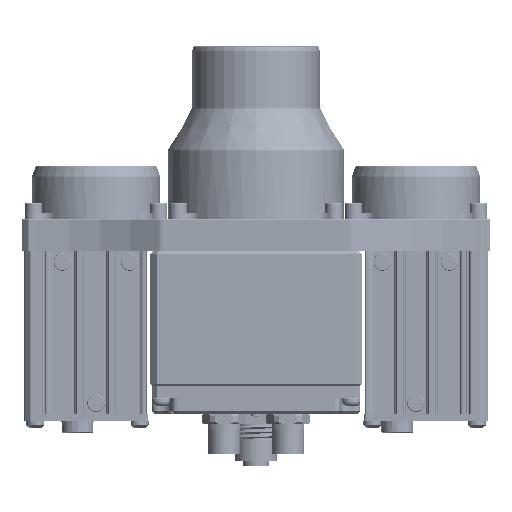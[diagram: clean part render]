
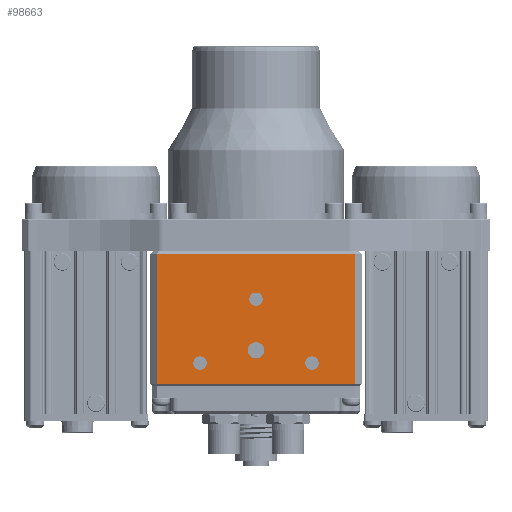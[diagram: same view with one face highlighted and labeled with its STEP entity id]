
A CAD part, front view. The second image highlights one B-rep face of the part: STEP entity #98663.
In plain terms, the highlighted planar face has unit normal (0, -1, 0).
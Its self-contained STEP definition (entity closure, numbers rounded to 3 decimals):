
#1923=PLANE('',#107540);
#3163=FACE_BOUND('',#11820,.T.);
#3164=FACE_BOUND('',#11821,.T.);
#3165=FACE_BOUND('',#11822,.T.);
#3166=FACE_BOUND('',#11823,.T.);
#6424=FACE_OUTER_BOUND('',#11819,.T.);
#11819=EDGE_LOOP('',(#75637,#75638,#75639,#75640));
#11820=EDGE_LOOP('',(#75641));
#11821=EDGE_LOOP('',(#75642));
#11822=EDGE_LOOP('',(#75643));
#11823=EDGE_LOOP('',(#75644));
#18084=CIRCLE('',#107541,2.1);
#18085=CIRCLE('',#107542,2.1);
#18086=CIRCLE('',#107543,2.1);
#18087=CIRCLE('',#107544,2.553);
#24720=LINE('',#166664,#32726);
#24750=LINE('',#166722,#32756);
#24754=LINE('',#166729,#32760);
#24757=LINE('',#166733,#32763);
#32726=VECTOR('',#128345,1000.);
#32756=VECTOR('',#128399,1000.);
#32760=VECTOR('',#128409,1000.);
#32763=VECTOR('',#128414,1000.);
#42473=VERTEX_POINT('',#166647);
#42479=VERTEX_POINT('',#166662);
#42493=VERTEX_POINT('',#166712);
#42495=VERTEX_POINT('',#166720);
#42499=VERTEX_POINT('',#166746);
#42500=VERTEX_POINT('',#166748);
#42501=VERTEX_POINT('',#166750);
#42502=VERTEX_POINT('',#166752);
#54390=EDGE_CURVE('',#42473,#42479,#24720,.T.);
#54420=EDGE_CURVE('',#42493,#42495,#24750,.T.);
#54424=EDGE_CURVE('',#42479,#42493,#24754,.T.);
#54427=EDGE_CURVE('',#42495,#42473,#24757,.T.);
#54433=EDGE_CURVE('',#42499,#42499,#18084,.T.);
#54434=EDGE_CURVE('',#42500,#42500,#18085,.T.);
#54435=EDGE_CURVE('',#42501,#42501,#18086,.T.);
#54436=EDGE_CURVE('',#42502,#42502,#18087,.T.);
#75637=ORIENTED_EDGE('',*,*,#54427,.T.);
#75638=ORIENTED_EDGE('',*,*,#54390,.T.);
#75639=ORIENTED_EDGE('',*,*,#54424,.T.);
#75640=ORIENTED_EDGE('',*,*,#54420,.T.);
#75641=ORIENTED_EDGE('',*,*,#54433,.F.);
#75642=ORIENTED_EDGE('',*,*,#54434,.F.);
#75643=ORIENTED_EDGE('',*,*,#54435,.F.);
#75644=ORIENTED_EDGE('',*,*,#54436,.F.);
#98663=ADVANCED_FACE('',(#6424,#3163,#3164,#3165,#3166),#1923,.T.);
#107540=AXIS2_PLACEMENT_3D('',#166745,#128429,#128430);
#107541=AXIS2_PLACEMENT_3D('',#166747,#128431,#128432);
#107542=AXIS2_PLACEMENT_3D('',#166749,#128433,#128434);
#107543=AXIS2_PLACEMENT_3D('',#166751,#128435,#128436);
#107544=AXIS2_PLACEMENT_3D('',#166753,#128437,#128438);
#128345=DIRECTION('',(1.,0.,0.));
#128399=DIRECTION('',(-1.,0.,0.));
#128409=DIRECTION('',(0.,0.,1.));
#128414=DIRECTION('',(0.,0.,-1.));
#128429=DIRECTION('center_axis',(0.,-1.,0.));
#128430=DIRECTION('ref_axis',(0.,0.,
-1.));
#128431=DIRECTION('center_axis',(0.,-1.,0.));
#128432=DIRECTION('ref_axis',(0.,0.,
-1.));
#128433=DIRECTION('center_axis',(0.,-1.,0.));
#128434=DIRECTION('ref_axis',(0.,0.,
-1.));
#128435=DIRECTION('center_axis',(0.,-1.,0.));
#128436=DIRECTION('ref_axis',(0.,0.,
-1.));
#128437=DIRECTION('center_axis',(0.,-1.,0.));
#128438=DIRECTION('ref_axis',(0.,0.,
-1.));
#166647=CARTESIAN_POINT('',(-31.,-35.,-51.5));
#166662=CARTESIAN_POINT('',(31.,-35.,-51.5));
#166664=CARTESIAN_POINT('',(31.,-35.,-51.5));
#166712=CARTESIAN_POINT('',(31.,-35.,-11.));
#166720=CARTESIAN_POINT('',(-31.,-35.,-11.));
#166722=CARTESIAN_POINT('',(-33.,-35.,-11.));
#166729=CARTESIAN_POINT('',(31.,-35.,-52.));
#166733=CARTESIAN_POINT('',(-31.,-35.,-52.));
#166745=CARTESIAN_POINT('Origin',(-33.,-35.,-52.));
#166746=CARTESIAN_POINT('',(0.,-35.,-22.9));
#166747=CARTESIAN_POINT('Origin',(0.,-35.,-25.));
#166748=CARTESIAN_POINT('',(17.5,-35.,-42.9));
#166749=CARTESIAN_POINT('Origin',(17.5,-35.,-45.));
#166750=CARTESIAN_POINT('',(-17.5,-35.,-42.9));
#166751=CARTESIAN_POINT('Origin',(-17.5,-35.,-45.));
#166752=CARTESIAN_POINT('',(0.,-35.,-38.447));
#166753=CARTESIAN_POINT('Origin',(0.,-35.,-41.));
